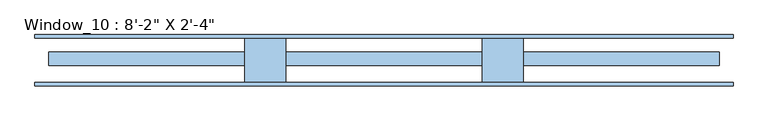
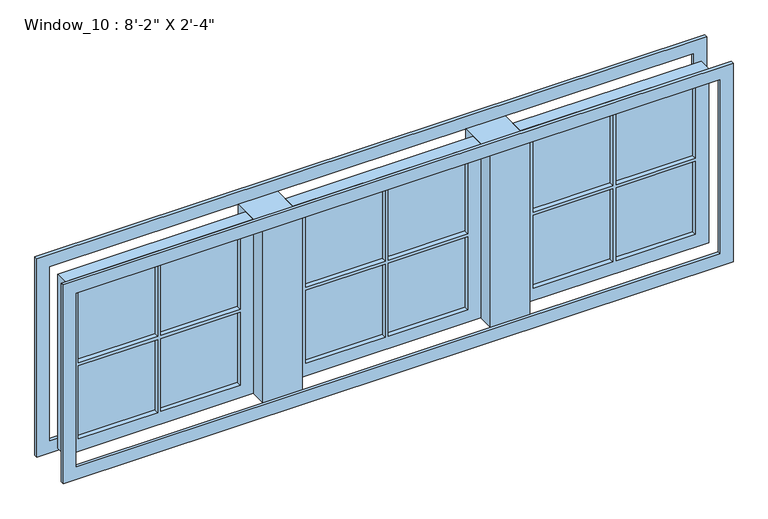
"""IFC4 building model written with IfcOpenShell, lengths in millimetres: window geometry."""

from ifc_helpers import new_model, si_unit, frame, origin, place, context, project, spatial, polyline, outline, extrude, source, transform, mapped, element, save


def window_ca17eceb(model_context):
    return source(origin(), model_context, "Body", "SweptSolid", [
        extrude(outline(polyline([(376.7666667, 82.55), (529.1666667, 82.55), (529.1666667, -82.55), (376.7666667, -82.55), (376.7666667, 82.55)])), frame((0.0, 0.0, 812.8), z_axis=(0.0, 0.0, 1.0), x_axis=(1.0, 0.0, 0.0)), (0.0, 0.0, 1.0), 711.2),
        extrude(outline(polyline([(-503.7666667, 82.55), (-351.3666667, 82.55), (-351.3666667, -82.55), (-503.7666667, -82.55), (-503.7666667, 82.55)])), frame((0.0, 0.0, 812.8), z_axis=(0.0, 0.0, 1.0), x_axis=(1.0, 0.0, 0.0)), (0.0, 0.0, 1.0), 711.2),
        extrude(outline(polyline([(1206.5, 0.0), (899.5833333, 0.0), (899.5833333, 12.7), (1206.5, 12.7), (1206.5, 0.0)])), frame((0.0, 0.0, 863.6), z_axis=(0.0, 0.0, 1.0), x_axis=(1.0, 0.0, 0.0)), (0.0, 0.0, 1.0), 298.45),
        extrude(outline(polyline([(1206.5, 0.0), (899.5833333, 0.0), (899.5833333, 12.7), (1206.5, 12.7), (1206.5, 0.0)])), frame((0.0, 0.0, 1174.75), z_axis=(0.0, 0.0, 1.0), x_axis=(1.0, 0.0, 0.0)), (0.0, 0.0, 1.0), 298.45),
        extrude(outline(polyline([(-874.1833333, 0.0), (-1181.1, 0.0), (-1181.1, 12.7), (-874.1833333, 12.7), (-874.1833333, 0.0)])), frame((0.0, 0.0, 1174.75), z_axis=(0.0, 0.0, 1.0), x_axis=(1.0, 0.0, 0.0)), (0.0, 0.0, 1.0), 298.45),
        extrude(outline(polyline([(886.8833333, 0.0), (579.9666667, 0.0), (579.9666667, 12.7), (886.8833333, 12.7), (886.8833333, 0.0)])), frame((0.0, 0.0, 1174.75), z_axis=(0.0, 0.0, 1.0), x_axis=(1.0, 0.0, 0.0)), (0.0, 0.0, 1.0), 298.45),
        extrude(outline(polyline([(325.9666667, 0.0), (19.05, 0.0), (19.05, 12.7), (325.9666667, 12.7), (325.9666667, 0.0)])), frame((0.0, 0.0, 863.6), z_axis=(0.0, 0.0, 1.0), x_axis=(1.0, 0.0, 0.0)), (0.0, 0.0, 1.0), 298.45),
        extrude(outline(polyline([(6.35, 0.0), (-300.5666667, 0.0), (-300.5666667, 12.7), (6.35, 12.7), (6.35, 0.0)])), frame((0.0, 0.0, 1174.75), z_axis=(0.0, 0.0, 1.0), x_axis=(1.0, 0.0, 0.0)), (0.0, 0.0, 1.0), 298.45),
        extrude(outline(polyline([(-554.5666667, 0.0), (-861.4833333, 0.0), (-861.4833333, 12.7), (-554.5666667, 12.7), (-554.5666667, 0.0)])), frame((0.0, 0.0, 863.6), z_axis=(0.0, 0.0, 1.0), x_axis=(1.0, 0.0, 0.0)), (0.0, 0.0, 1.0), 298.45),
        extrude(outline(polyline([(325.9666667, 0.0), (19.05, 0.0), (19.05, 12.7), (325.9666667, 12.7), (325.9666667, 0.0)])), frame((0.0, 0.0, 1174.75), z_axis=(0.0, 0.0, 1.0), x_axis=(1.0, 0.0, 0.0)), (0.0, 0.0, 1.0), 298.45),
        extrude(outline(polyline([(-554.5666667, 0.0), (-861.4833333, 0.0), (-861.4833333, 12.7), (-554.5666667, 12.7), (-554.5666667, 0.0)])), frame((0.0, 0.0, 1174.75), z_axis=(0.0, 0.0, 1.0), x_axis=(1.0, 0.0, 0.0)), (0.0, 0.0, 1.0), 298.45),
        extrude(outline(polyline([(886.8833333, 0.0), (579.9666667, 0.0), (579.9666667, 12.7), (886.8833333, 12.7), (886.8833333, 0.0)])), frame((0.0, 0.0, 863.6), z_axis=(0.0, 0.0, 1.0), x_axis=(1.0, 0.0, 0.0)), (0.0, 0.0, 1.0), 298.45),
        extrude(outline(polyline([(6.35, 0.0), (-300.5666667, 0.0), (-300.5666667, 12.7), (6.35, 12.7), (6.35, 0.0)])), frame((0.0, 0.0, 863.6), z_axis=(0.0, 0.0, 1.0), x_axis=(1.0, 0.0, 0.0)), (0.0, 0.0, 1.0), 298.45),
        extrude(outline(polyline([(-874.1833333, 0.0), (-1181.1, 0.0), (-1181.1, 12.7), (-874.1833333, 12.7), (-874.1833333, 0.0)])), frame((0.0, 0.0, 863.6), z_axis=(0.0, 0.0, 1.0), x_axis=(1.0, 0.0, 0.0)), (0.0, 0.0, 1.0), 298.45),
        extrude(outline(polyline([(1524.0, 529.1666667), (812.8, 529.1666667), (812.8, 1257.3), (1524.0, 1257.3), (1524.0, 529.1666667)]), holes=[polyline([(863.6, 899.5833333), (1162.05, 899.5833333), (1162.05, 1206.5), (863.6, 1206.5), (863.6, 899.5833333)]), polyline([(1162.05, 886.8833333), (863.6, 886.8833333), (863.6, 579.9666667), (1162.05, 579.9666667), (1162.05, 886.8833333)]), polyline([(1473.2, 899.5833333), (1473.2, 1206.5), (1174.75, 1206.5), (1174.75, 899.5833333), (1473.2, 899.5833333)]), polyline([(1174.75, 579.9666667), (1473.2, 579.9666667), (1473.2, 886.8833333), (1174.75, 886.8833333), (1174.75, 579.9666667)])]), frame((0.0, -19.05, 0.0), z_axis=(0.0, 1.0, 0.0), x_axis=(0.0, 0.0, 1.0)), (0.0, 0.0, 1.0), 50.8),
        extrude(outline(polyline([(812.8, -1231.9), (812.8, -503.7666667), (1524.0, -503.7666667), (1524.0, -1231.9), (812.8, -1231.9)]), holes=[polyline([(1162.05, -554.5666667), (863.6, -554.5666667), (863.6, -861.4833333), (1162.05, -861.4833333), (1162.05, -554.5666667)]), polyline([(1162.05, -874.1833333), (863.6, -874.1833333), (863.6, -1181.1), (1162.05, -1181.1), (1162.05, -874.1833333)]), polyline([(1174.75, -1181.1), (1473.2, -1181.1), (1473.2, -874.1833333), (1174.75, -874.1833333), (1174.75, -1181.1)]), polyline([(1473.2, -861.4833333), (1473.2, -554.5666667), (1174.75, -554.5666667), (1174.75, -861.4833333), (1473.2, -861.4833333)])]), frame((0.0, -19.05, 0.0), z_axis=(0.0, 1.0, 0.0), x_axis=(0.0, 0.0, 1.0)), (0.0, 0.0, 1.0), 50.8),
        extrude(outline(polyline([(1524.0, 376.7666667), (1524.0, -351.3666667), (812.8, -351.3666667), (812.8, 376.7666667), (1524.0, 376.7666667)]), holes=[polyline([(1162.05, 325.9666667), (863.6, 325.9666667), (863.6, 19.05), (1162.05, 19.05), (1162.05, 325.9666667)]), polyline([(1162.05, 6.35), (863.6, 6.35), (863.6, -300.5666667), (1162.05, -300.5666667), (1162.05, 6.35)]), polyline([(1174.75, -300.5666667), (1473.2, -300.5666667), (1473.2, 6.35), (1174.75, 6.35), (1174.75, -300.5666667)]), polyline([(1473.2, 19.05), (1473.2, 325.9666667), (1174.75, 325.9666667), (1174.75, 19.05), (1473.2, 19.05)])]), frame((0.0, -19.05, 0.0), z_axis=(0.0, 1.0, 0.0), x_axis=(0.0, 0.0, 1.0)), (0.0, 0.0, 1.0), 50.8),
        extrude(outline(polyline([(1574.8, -1282.7), (762.0, -1282.7), (762.0, 1308.1), (1574.8, 1308.1), (1574.8, -1282.7)]), holes=[polyline([(1524.0, -1231.9), (1524.0, 1257.3), (812.8, 1257.3), (812.8, -1231.9), (1524.0, -1231.9)])]), frame((0.0, 82.55, 0.0), z_axis=(0.0, 1.0, 0.0), x_axis=(0.0, 0.0, 1.0)), (0.0, 0.0, 1.0), 12.7),
        extrude(outline(polyline([(1574.8, -1282.7), (762.0, -1282.7), (762.0, 1308.1), (1574.8, 1308.1), (1574.8, -1282.7)]), holes=[polyline([(812.8, 1257.3), (812.8, -1231.9), (1524.0, -1231.9), (1524.0, 1257.3), (812.8, 1257.3)])]), frame((0.0, -95.25, 0.0), z_axis=(0.0, 1.0, 0.0), x_axis=(0.0, 0.0, 1.0)), (0.0, 0.0, 1.0), 12.7),
    ])


if __name__ == "__main__":
    model = new_model("IFC4")
    model_context = context("Model", 3, world=origin())
    ifc_project = project(units=[si_unit("LENGTHUNIT", "METRE", prefix="MILLI")], contexts=[model_context])
    site = spatial("IfcSite", under=ifc_project)
    building = spatial("IfcBuilding", under=site)
    placement = place(None, origin())
    window_shape = window_ca17eceb(model_context)
    element("IfcWindow", 1, ObjectType="Window_10 : 8'-2\" X 2'-4\"", at=placement, inside=building, context=model_context, shape_type="MappedRepresentation", body=[
        mapped(window_shape, transform((0.0, 0.0, 0.0), x_axis=(1.0, 0.0, 0.0), y_axis=(0.0, 1.0, 0.0), z_axis=(0.0, 0.0, 1.0))),
    ])
    save(model, "model.ifc")
